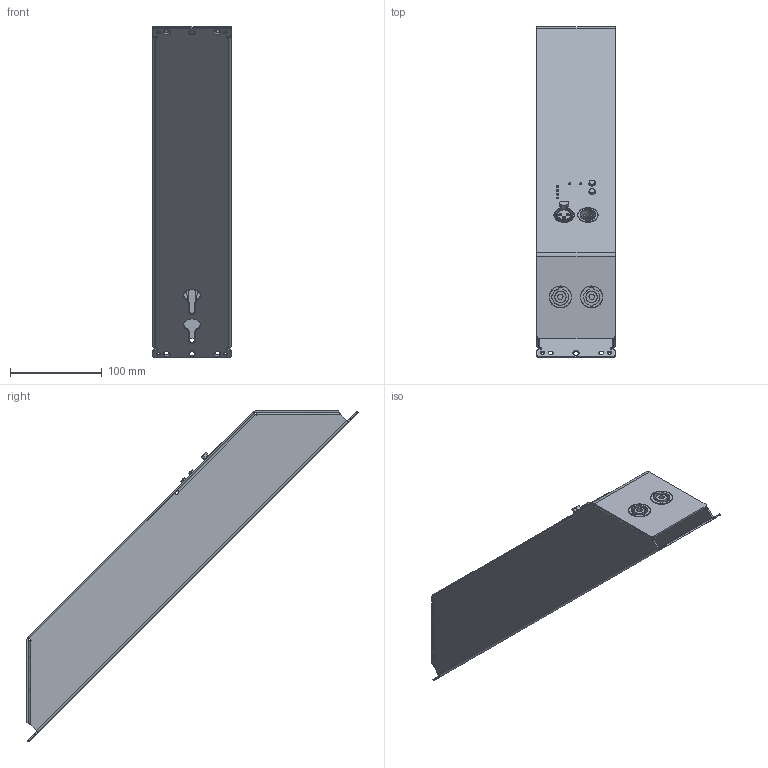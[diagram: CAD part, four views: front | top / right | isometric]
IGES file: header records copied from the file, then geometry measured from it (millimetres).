
Start section: SolidWorks IGES file using analytic representation for surfaces
Global section: file name: C:\Documents and Settings\Administrator\My Documents\Nico\Entwicklungen\Powerstick\Powerstick-DPLM_2015\Homepage\Powerstick.IGS; native system: SolidWorks 2009; preprocessor: SolidWorks 2009; author: Administrator; date: 150716.093349; units: millimetre
Bounding box: 85 x 361.62 x 361.62 mm (x, y, z)
Surface area: 359036.1 mm2 (no closed solid volume)
Topology: 0 solids, 0 shells, 791 faces, 10887 edges, 10878 vertices
Faces by surface type: bspline 432, revolution 359
